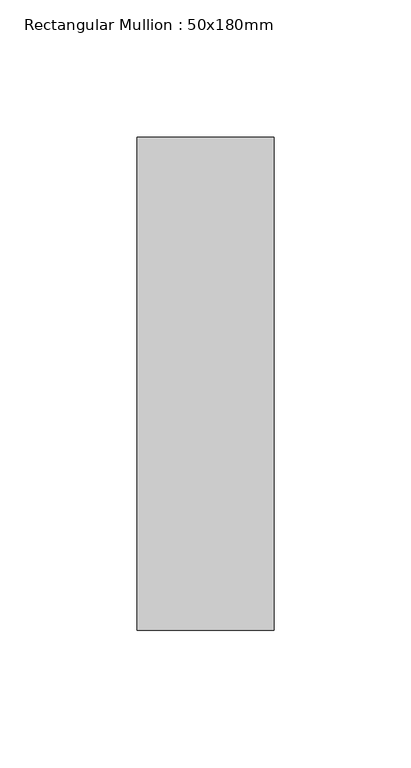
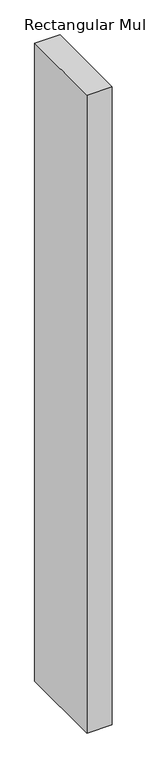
"""IFC4 building model written with IfcOpenShell, lengths in millimetres: member geometry, Rectangular Mullion : 50x180mm."""

from ifc_helpers import new_model, si_unit, frame, origin, place, context, project, spatial, polyline, outline, extrude, source, transform, mapped, element, save


def rectangular_mullion_50x180mm_18b0a1cf(model_context):
    return source(origin(), model_context, "Body", "SweptSolid", [
        extrude(outline(polyline([(25.0, 90.0), (25.0, -90.0), (-25.0, -90.0), (-25.0, 90.0), (25.0, 90.0)])), frame((0.0, 0.0, -1340.8333333), z_axis=(0.0, 0.0, 1.0), x_axis=(1.0, 0.0, 0.0)), (0.0, 0.0, 1.0), 1340.8333333),
    ])


if __name__ == "__main__":
    model = new_model("IFC4")
    model_context = context("Model", 3, world=origin())
    ifc_project = project(units=[si_unit("LENGTHUNIT", "METRE", prefix="MILLI")], contexts=[model_context])
    site = spatial("IfcSite", under=ifc_project)
    building = spatial("IfcBuilding", under=site)
    placement = place(None, origin())
    rectangular_mullion_50x180mm_shape = rectangular_mullion_50x180mm_18b0a1cf(model_context)
    element("IfcMember", 1, ObjectType="Rectangular Mullion : 50x180mm", at=placement, inside=building, context=model_context, shape_type="MappedRepresentation", body=[
        mapped(rectangular_mullion_50x180mm_shape, transform((0.0, 0.0, 0.0), x_axis=(1.0, 0.0, 0.0), y_axis=(0.0, 1.0, 0.0), z_axis=(0.0, 0.0, 1.0))),
    ])
    save(model, "model.ifc")
